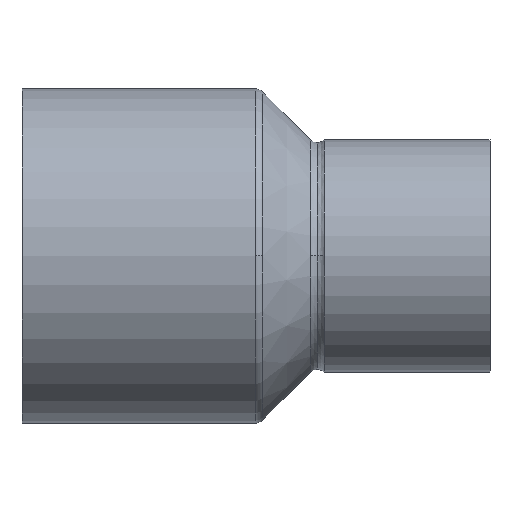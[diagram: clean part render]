
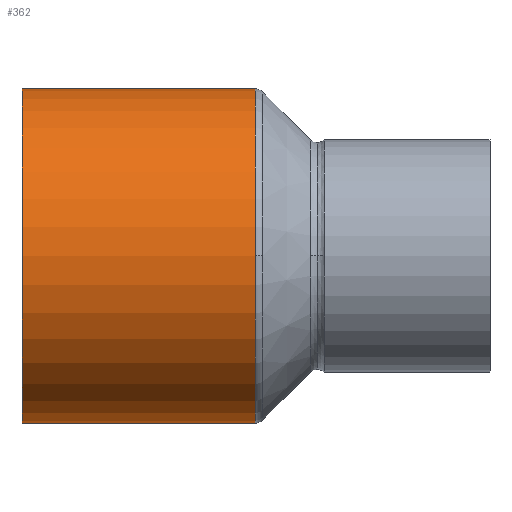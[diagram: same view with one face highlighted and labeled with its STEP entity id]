
A CAD part, top view. The second image highlights one B-rep face of the part: STEP entity #362.
In plain terms, the highlighted cylindrical face has radius 17.5 mm (diameter 35 mm), a partial arc.
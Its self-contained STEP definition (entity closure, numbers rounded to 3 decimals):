
#312=CARTESIAN_POINT('',(12.207,0.0,0.0));
#313=DIRECTION('',(1.0,0.0,0.0));
#314=DIRECTION('',(0.0,1.0,0.0));
#315=AXIS2_PLACEMENT_3D('',#312,#313,#314);
#316=CYLINDRICAL_SURFACE('',#315,17.5);
#317=CARTESIAN_POINT('',(0.,17.5,0.0));
#318=VERTEX_POINT('',#317);
#319=CARTESIAN_POINT('',(24.413,17.5,0.0));
#320=VERTEX_POINT('',#319);
#321=CARTESIAN_POINT('',(0.,17.5,0.0));
#322=DIRECTION('',(1.0,0.0,0.0));
#323=VECTOR('',#322,24.413);
#324=LINE('',#321,#323);
#325=EDGE_CURVE('',#318,#320,#324,.T.);
#326=ORIENTED_EDGE('',*,*,#325,.F.);
#327=CARTESIAN_POINT('',(0.,-17.5,0.));
#328=VERTEX_POINT('',#327);
#329=CARTESIAN_POINT('',(0.,0.0,0.0));
#330=DIRECTION('',(1.0,0.0,0.0));
#331=DIRECTION('',(0.0,1.0,0.0));
#332=AXIS2_PLACEMENT_3D('',#329,#330,#331);
#333=CIRCLE('',#332,17.5);
#334=EDGE_CURVE('',#318,#328,#333,.T.);
#335=ORIENTED_EDGE('',*,*,#334,.T.);
#336=CARTESIAN_POINT('',(24.413,-17.5,0.));
#337=VERTEX_POINT('',#336);
#338=CARTESIAN_POINT('',(24.413,-17.5,0.));
#339=DIRECTION('',(-1.0,0.0,0.0));
#340=VECTOR('',#339,24.413);
#341=LINE('',#338,#340);
#342=EDGE_CURVE('',#337,#328,#341,.T.);
#343=ORIENTED_EDGE('',*,*,#342,.F.);
#344=CARTESIAN_POINT('',(24.413,0.,17.5));
#345=VERTEX_POINT('',#344);
#346=CARTESIAN_POINT('',(24.413,0.0,0.0));
#347=DIRECTION('',(1.0,0.0,0.0));
#348=DIRECTION('',(0.0,1.0,0.0));
#349=AXIS2_PLACEMENT_3D('',#346,#347,#348);
#350=CIRCLE('',#349,17.5);
#351=EDGE_CURVE('',#345,#337,#350,.T.);
#352=ORIENTED_EDGE('',*,*,#351,.F.);
#353=CARTESIAN_POINT('',(24.413,0.0,0.0));
#354=DIRECTION('',(1.0,0.0,0.0));
#355=DIRECTION('',(0.0,1.0,0.0));
#356=AXIS2_PLACEMENT_3D('',#353,#354,#355);
#357=CIRCLE('',#356,17.5);
#358=EDGE_CURVE('',#320,#345,#357,.T.);
#359=ORIENTED_EDGE('',*,*,#358,.F.);
#360=EDGE_LOOP('',(#326,#335,#343,#352,#359));
#361=FACE_OUTER_BOUND('',#360,.T.);
#362=ADVANCED_FACE('',(#361),#316,.T.);
